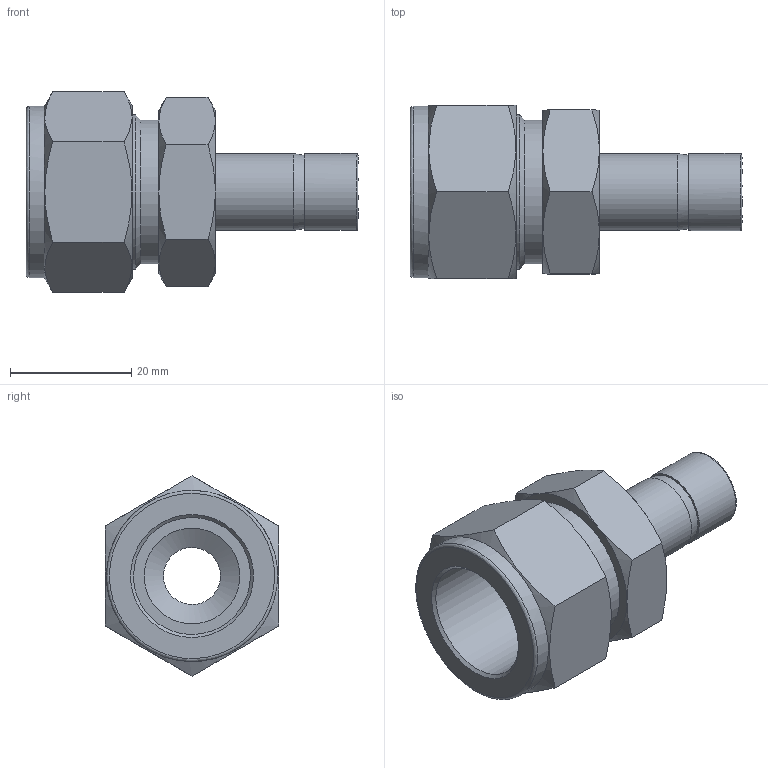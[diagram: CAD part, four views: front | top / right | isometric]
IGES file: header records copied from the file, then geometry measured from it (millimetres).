
Global section: file name: SR-12-8; native system: Autodesk Inventor 2016; preprocessor: unknown; author: DESIGNPC2; date: 20151113.083241; units: millimetre
Bounding box: 54.69 x 28.57 x 33 mm (x, y, z)
Volume: 13529.7 mm3; surface area: 7640.1 mm2
Topology: 1 solids, 1 shells, 47 faces, 122 edges, 82 vertices
Faces by surface type: bspline 47
